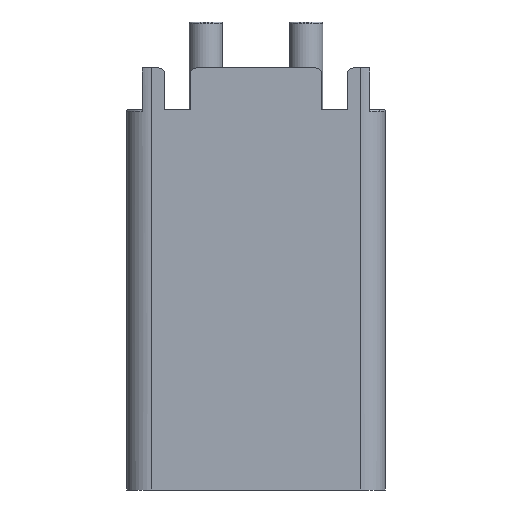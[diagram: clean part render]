
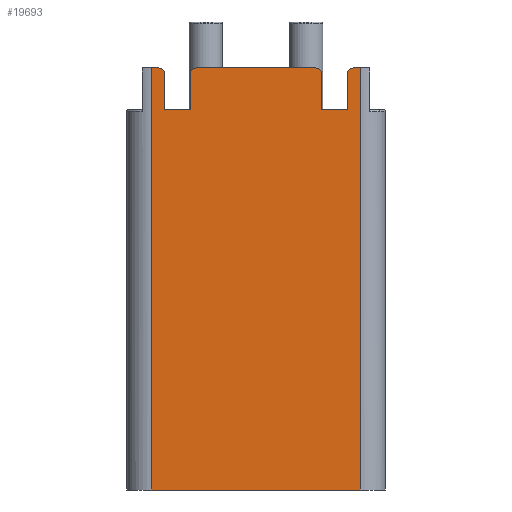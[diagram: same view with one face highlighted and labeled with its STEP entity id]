
A CAD part, front view. The second image highlights one B-rep face of the part: STEP entity #19693.
In plain terms, the highlighted planar face has unit normal (0, -1, 0).
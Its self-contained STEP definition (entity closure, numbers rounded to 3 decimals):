
#13 = DIRECTION ( 'NONE',  ( 1., 0., 0. ) ) ;
#82 = VERTEX_POINT ( 'NONE', #26215 ) ;
#91 = LINE ( 'NONE', #10415, #20753 ) ;
#122 = LINE ( 'NONE', #22752, #11173 ) ;
#1552 = VERTEX_POINT ( 'NONE', #22145 ) ;
#1765 = DIRECTION ( 'NONE',  ( 0., 1., 0. ) ) ;
#1806 = CIRCLE ( 'NONE', #21518, 0.75 ) ;
#1814 = DIRECTION ( 'NONE',  ( 1., 0., 0. ) ) ;
#2129 = ORIENTED_EDGE ( 'NONE', *, *, #8875, .F. ) ;
#2180 = LINE ( 'NONE', #7510, #25546 ) ;
#2311 = VERTEX_POINT ( 'NONE', #24754 ) ;
#3095 = CARTESIAN_POINT ( 'NONE',  ( 10.124, 23.856, 88.237 ) ) ;
#3150 = DIRECTION ( 'NONE',  ( 1., 0., 0. ) ) ;
#3329 = CARTESIAN_POINT ( 'NONE',  ( 30.524, 23.856, 88.237 ) ) ;
#3430 = VECTOR ( 'NONE', #1814, 1000. ) ;
#3684 = VERTEX_POINT ( 'NONE', #6462 ) ;
#3890 = CARTESIAN_POINT ( 'NONE',  ( 7.124, 23.856, 83.237 ) ) ;
#4378 = ORIENTED_EDGE ( 'NONE', *, *, #9162, .F. ) ;
#4390 = VERTEX_POINT ( 'NONE', #15225 ) ;
#4834 = ORIENTED_EDGE ( 'NONE', *, *, #5119, .F. ) ;
#5119 = EDGE_CURVE ( 'NONE', #13016, #14030, #20632, .T. ) ;
#5665 = DIRECTION ( 'NONE',  ( 0., -1., 0. ) ) ;
#5853 = CARTESIAN_POINT ( 'NONE',  ( 25.924, 23.856, 87.487 ) ) ;
#5861 = ORIENTED_EDGE ( 'NONE', *, *, #6263, .T. ) ;
#5915 = VERTEX_POINT ( 'NONE', #25606 ) ;
#5934 = DIRECTION ( 'NONE',  ( 0., -1., 0. ) ) ;
#6046 = EDGE_CURVE ( 'NONE', #13016, #2311, #23328, .T. ) ;
#6263 = EDGE_CURVE ( 'NONE', #6344, #3684, #11730, .T. ) ;
#6344 = VERTEX_POINT ( 'NONE', #5853 ) ;
#6416 = CARTESIAN_POINT ( 'NONE',  ( 28.924, 23.856, 88.237 ) ) ;
#6428 = EDGE_CURVE ( 'NONE', #2311, #5915, #19066, .T. ) ;
#6462 = CARTESIAN_POINT ( 'NONE',  ( 25.174, 23.856, 88.237 ) ) ;
#6609 = CARTESIAN_POINT ( 'NONE',  ( 10.124, 23.856, 88.237 ) ) ;
#6945 = EDGE_CURVE ( 'NONE', #19412, #4390, #9774, .T. ) ;
#6959 = CARTESIAN_POINT ( 'NONE',  ( 7.124, 23.856, 88.237 ) ) ;
#6969 = LINE ( 'NONE', #16433, #22250 ) ;
#7329 = LINE ( 'NONE', #8443, #22645 ) ;
#7488 = EDGE_CURVE ( 'NONE', #82, #19412, #22480, .T. ) ;
#7510 = CARTESIAN_POINT ( 'NONE',  ( 5.524, 23.856, 83.237 ) ) ;
#7565 = DIRECTION ( 'NONE',  ( 0., 0., -1. ) ) ;
#8053 = CARTESIAN_POINT ( 'NONE',  ( 10.874, 23.856, 87.487 ) ) ;
#8102 = ORIENTED_EDGE ( 'NONE', *, *, #6428, .T. ) ;
#8408 = AXIS2_PLACEMENT_3D ( 'NONE', #8488, #22427, #10542 ) ;
#8443 = CARTESIAN_POINT ( 'NONE',  ( 5.524, 23.856, 83.237 ) ) ;
#8488 = CARTESIAN_POINT ( 'NONE',  ( 29.674, 23.856, 87.487 ) ) ;
#8581 = VECTOR ( 'NONE', #10334, 1000. ) ;
#8617 = CARTESIAN_POINT ( 'NONE',  ( 10.124, 23.856, 87.487 ) ) ;
#8671 = VECTOR ( 'NONE', #20781, 1000. ) ;
#8875 = EDGE_CURVE ( 'NONE', #14030, #26225, #17355, .T. ) ;
#8931 = LINE ( 'NONE', #6609, #18792 ) ;
#8993 = CARTESIAN_POINT ( 'NONE',  ( 5.524, 23.856, 37.687 ) ) ;
#9162 = EDGE_CURVE ( 'NONE', #23587, #16317, #23946, .T. ) ;
#9322 = EDGE_CURVE ( 'NONE', #23587, #12387, #1806, .T. ) ;
#9450 = EDGE_CURVE ( 'NONE', #10704, #12387, #91, .T. ) ;
#9523 = EDGE_CURVE ( 'NONE', #10704, #1552, #122, .T. ) ;
#9652 = EDGE_CURVE ( 'NONE', #1552, #26225, #14196, .T. ) ;
#9727 = EDGE_CURVE ( 'NONE', #21390, #5915, #7329, .T. ) ;
#9774 = LINE ( 'NONE', #3095, #25079 ) ;
#9975 = CARTESIAN_POINT ( 'NONE',  ( 29.674, 23.856, 88.237 ) ) ;
#9982 = EDGE_CURVE ( 'NONE', #16317, #4390, #2180, .T. ) ;
#10100 = DIRECTION ( 'NONE',  ( 0., 0., 1. ) ) ;
#10334 = DIRECTION ( 'NONE',  ( 0., 0., -1. ) ) ;
#10389 = ORIENTED_EDGE ( 'NONE', *, *, #9982, .F. ) ;
#10415 = CARTESIAN_POINT ( 'NONE',  ( 5.624, 23.856, 88.237 ) ) ;
#10542 = DIRECTION ( 'NONE',  ( 0., 0., 1. ) ) ;
#10704 = VERTEX_POINT ( 'NONE', #25108 ) ;
#10867 = DIRECTION ( 'NONE',  ( 0., 0., -1. ) ) ;
#11100 = ORIENTED_EDGE ( 'NONE', *, *, #9322, .T. ) ;
#11173 = VECTOR ( 'NONE', #10867, 1000. ) ;
#11303 = CARTESIAN_POINT ( 'NONE',  ( 28.924, 23.856, 88.237 ) ) ;
#11532 = FACE_OUTER_BOUND ( 'NONE', #19470, .T. ) ;
#11730 = CIRCLE ( 'NONE', #19647, 0.75 ) ;
#11802 = EDGE_CURVE ( 'NONE', #82, #3684, #8931, .T. ) ;
#11825 = ORIENTED_EDGE ( 'NONE', *, *, #6945, .T. ) ;
#12387 = VERTEX_POINT ( 'NONE', #16929 ) ;
#12509 = ORIENTED_EDGE ( 'NONE', *, *, #11802, .F. ) ;
#12996 = AXIS2_PLACEMENT_3D ( 'NONE', #13948, #1765, #15895 ) ;
#13016 = VERTEX_POINT ( 'NONE', #9975 ) ;
#13722 = ORIENTED_EDGE ( 'NONE', *, *, #7488, .T. ) ;
#13948 = CARTESIAN_POINT ( 'NONE',  ( 5.524, 23.856, 83.237 ) ) ;
#14030 = VERTEX_POINT ( 'NONE', #3329 ) ;
#14196 = LINE ( 'NONE', #8993, #3430 ) ;
#14303 = ORIENTED_EDGE ( 'NONE', *, *, #6046, .T. ) ;
#14742 = EDGE_CURVE ( 'NONE', #6344, #21390, #6969, .T. ) ;
#15225 = CARTESIAN_POINT ( 'NONE',  ( 10.124, 23.856, 83.237 ) ) ;
#15330 = VECTOR ( 'NONE', #3150, 1000. ) ;
#15565 = CARTESIAN_POINT ( 'NONE',  ( 7.124, 23.856, 87.487 ) ) ;
#15821 = PLANE ( 'NONE',  #12996 ) ;
#15895 = DIRECTION ( 'NONE',  ( 0., 0., 1. ) ) ;
#16107 = VECTOR ( 'NONE', #7565, 1000. ) ;
#16317 = VERTEX_POINT ( 'NONE', #3890 ) ;
#16324 = AXIS2_PLACEMENT_3D ( 'NONE', #8053, #21970, #10100 ) ;
#16433 = CARTESIAN_POINT ( 'NONE',  ( 25.924, 23.856, 88.237 ) ) ;
#16929 = CARTESIAN_POINT ( 'NONE',  ( 6.374, 23.856, 88.237 ) ) ;
#17263 = ORIENTED_EDGE ( 'NONE', *, *, #9652, .T. ) ;
#17355 = LINE ( 'NONE', #17472, #16107 ) ;
#17472 = CARTESIAN_POINT ( 'NONE',  ( 30.524, 23.856, 83.237 ) ) ;
#17533 = ORIENTED_EDGE ( 'NONE', *, *, #9450, .F. ) ;
#17641 = CARTESIAN_POINT ( 'NONE',  ( 25.174, 23.856, 87.487 ) ) ;
#17895 = CARTESIAN_POINT ( 'NONE',  ( 6.374, 23.856, 87.487 ) ) ;
#18422 = DIRECTION ( 'NONE',  ( 0., 0., -1. ) ) ;
#18792 = VECTOR ( 'NONE', #22597, 1000. ) ;
#19066 = LINE ( 'NONE', #6416, #8581 ) ;
#19403 = ORIENTED_EDGE ( 'NONE', *, *, #9523, .T. ) ;
#19412 = VERTEX_POINT ( 'NONE', #8617 ) ;
#19470 = EDGE_LOOP ( 'NONE', ( #4378, #11100, #17533, #19403, #17263, #2129, #4834, #14303, #8102, #19877, #20519, #5861, #12509, #13722, #11825, #10389 ) ) ;
#19603 = DIRECTION ( 'NONE',  ( 0., 0., 1. ) ) ;
#19647 = AXIS2_PLACEMENT_3D ( 'NONE', #17641, #5665, #19603 ) ;
#19693 = ADVANCED_FACE ( 'NONE', ( #11532 ), #15821, .F. ) ;
#19870 = DIRECTION ( 'NONE',  ( 0., 0., 1. ) ) ;
#19877 = ORIENTED_EDGE ( 'NONE', *, *, #9727, .F. ) ;
#20324 = CARTESIAN_POINT ( 'NONE',  ( 25.924, 23.856, 83.237 ) ) ;
#20519 = ORIENTED_EDGE ( 'NONE', *, *, #14742, .F. ) ;
#20632 = LINE ( 'NONE', #11303, #15330 ) ;
#20753 = VECTOR ( 'NONE', #13, 1000. ) ;
#20781 = DIRECTION ( 'NONE',  ( 0., 0., -1. ) ) ;
#21199 = DIRECTION ( 'NONE',  ( 0., 0., -1. ) ) ;
#21390 = VERTEX_POINT ( 'NONE', #20324 ) ;
#21437 = DIRECTION ( 'NONE',  ( 1., 0., 0. ) ) ;
#21518 = AXIS2_PLACEMENT_3D ( 'NONE', #17895, #5934, #19870 ) ;
#21970 = DIRECTION ( 'NONE',  ( 0., -1., 0. ) ) ;
#22145 = CARTESIAN_POINT ( 'NONE',  ( 5.524, 23.856, 37.687 ) ) ;
#22250 = VECTOR ( 'NONE', #18422, 1000. ) ;
#22376 = DIRECTION ( 'NONE',  ( 1., 0., 0. ) ) ;
#22427 = DIRECTION ( 'NONE',  ( 0., -1., 0. ) ) ;
#22480 = CIRCLE ( 'NONE', #16324, 0.75 ) ;
#22597 = DIRECTION ( 'NONE',  ( 1., 0., 0. ) ) ;
#22645 = VECTOR ( 'NONE', #22376, 1000. ) ;
#22752 = CARTESIAN_POINT ( 'NONE',  ( 5.524, 23.856, 83.237 ) ) ;
#23328 = CIRCLE ( 'NONE', #8408, 0.75 ) ;
#23587 = VERTEX_POINT ( 'NONE', #15565 ) ;
#23946 = LINE ( 'NONE', #6959, #8671 ) ;
#23993 = CARTESIAN_POINT ( 'NONE',  ( 30.524, 23.856, 37.687 ) ) ;
#24754 = CARTESIAN_POINT ( 'NONE',  ( 28.924, 23.856, 87.487 ) ) ;
#25079 = VECTOR ( 'NONE', #21199, 1000. ) ;
#25108 = CARTESIAN_POINT ( 'NONE',  ( 5.524, 23.856, 88.237 ) ) ;
#25546 = VECTOR ( 'NONE', #21437, 1000. ) ;
#25606 = CARTESIAN_POINT ( 'NONE',  ( 28.924, 23.856, 83.237 ) ) ;
#26215 = CARTESIAN_POINT ( 'NONE',  ( 10.874, 23.856, 88.237 ) ) ;
#26225 = VERTEX_POINT ( 'NONE', #23993 ) ;
